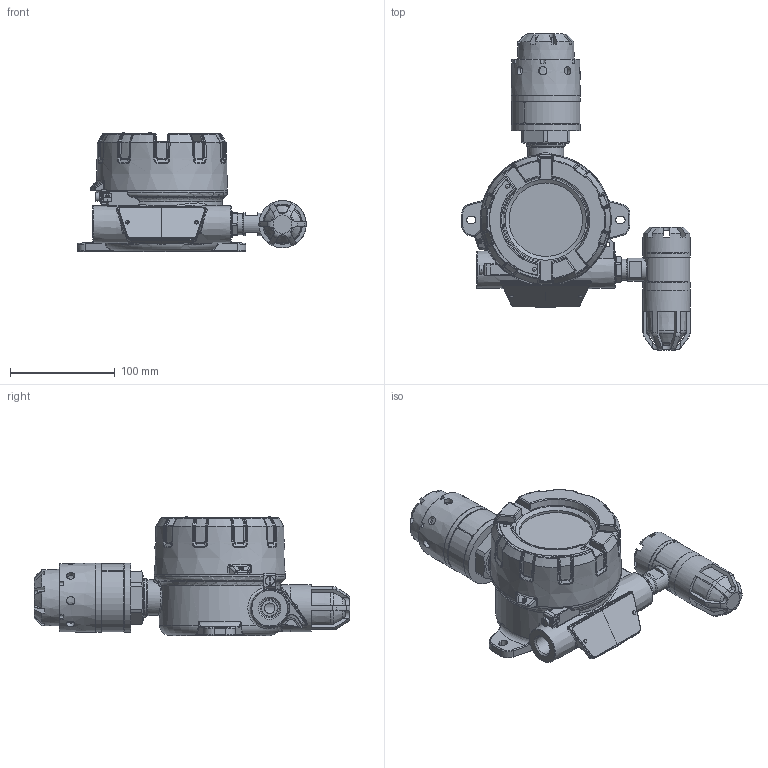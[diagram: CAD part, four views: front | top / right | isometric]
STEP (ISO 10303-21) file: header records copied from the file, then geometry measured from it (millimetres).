
FILE_DESCRIPTION(('STEP AP214'), '1');
FILE_NAME('ÄÃÑ ÝÐÈÑ-210 (êîðïóñ òèïà Á) ñ ÑÇÎ_3D ìîäåëü', '2023-11-23T06:46:13', ('Alexandr'), (''), 'C3D Converter', 'C3D Toolkit', '');
FILE_SCHEMA(('AUTOMOTIVE_DESIGN { 1 0 10303 214 3 1 1}'));
Length unit declared in the file: millimetre
Products named in the file (1): АПНС.413216.212
Bounding box: 217.54 x 301 x 113.4 mm (x, y, z)
Volume: 866070.8 mm3; surface area: 347128 mm2
Topology: 43 solids, 43 shells, 1814 faces, 4603 edges, 2847 vertices
Faces by surface type: plane 549, bspline 453, cylinder 437, cone 239, torus 122, sphere 14
Full cylindrical faces by diameter (mm): 0.8 x3, 1.4 x9, 2 x13, 2.459 x11, 2.5 x2, 3.242 x2, 3.5 x2, 3.6 x4, 4 x3, 4.134 x1, 4.5 x1, 5 x2, 5.064 x1, 6 x1, 7 x1, 7.5 x1, 7.95 x8, 8.5 x1, 10 x2, 10.106 x1, 10.15 x1, 11.4 x1, 13.8 x1, 14.376 x1, 16 x3, 17 x1, 18.376 x4, 20 x4, 21.901 x1, 24.5 x1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
Entity records: 128730 total; most frequent: CARTESIAN_POINT 75763, ORIENTED_EDGE 8466, DIRECTION 6450, EDGE_CURVE 4233, VERTEX_POINT 2821, AXIS2_PLACEMENT_3D 2659, EDGE_LOOP 2256, COLOUR_RGB 1857
